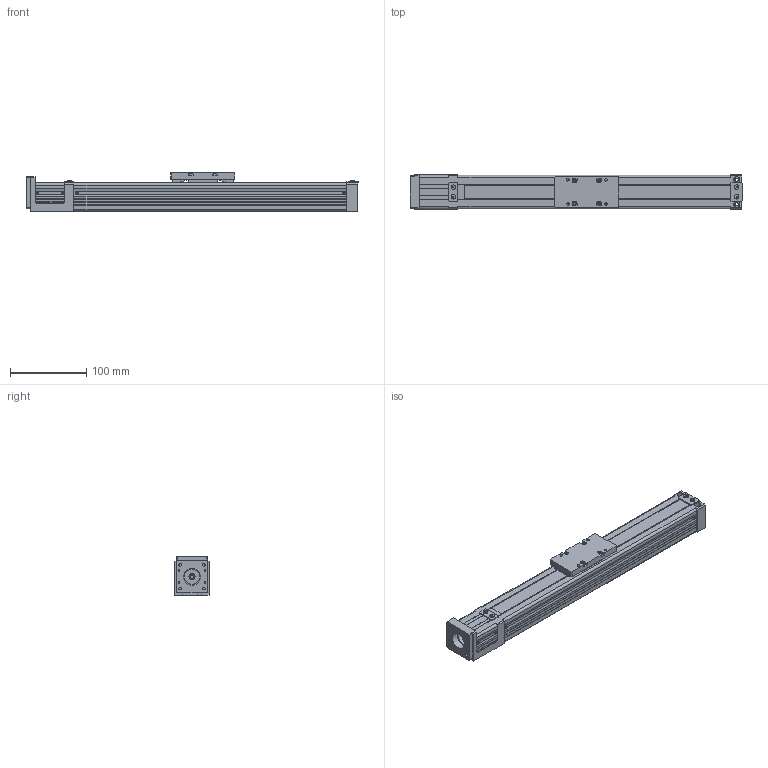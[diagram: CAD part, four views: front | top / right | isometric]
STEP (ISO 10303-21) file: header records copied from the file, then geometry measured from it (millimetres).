
FILE_DESCRIPTION((''),'2;1');
FILE_NAME('D:\製品 (図面)\カタログ用3D\SU部品\SU45×50\ダウンロード用\SU45×50-MB42\SU45×50-250-MB42.stp','2011-06-17T14:45:17',('Tsuchiya'),(''),'Autodesk Inventor 10','Autodesk Inventor 10','');
FILE_SCHEMA(('AUTOMOTIVE_DESIGN { 1 0 10303 214 1 1 1 1 }'));
Length unit declared in the file: millimetre
Products named in the file (3): SU45×50-250-MB42; SB45×50-250-MB42-1(1); SU45×50-T(1)
Assembly tree (2 placements, depth 2):
  SU45×50-250-MB42
    SB45×50-250-MB42-1(1)
    SU45×50-T(1)
Bounding box: 436 x 45 x 50 mm (x, y, z)
Volume: 289376.3 mm3; surface area: 177102.9 mm2
Topology: 2 solids, 2 shells, 676 faces, 1809 edges, 1192 vertices
Faces by surface type: plane 513, cylinder 79, bspline 53, torus 18, cone 13
Full cylindrical faces by diameter (mm): 2.459 x4, 3.242 x4, 3.4 x4, 4.5 x4, 5 x4, 6 x5, 7 x6, 8 x7, 10 x1, 20 x1, 22 x1, 30 x1
Entity records: 20861 total; most frequent: CARTESIAN_POINT 4588, ORIENTED_EDGE 3336, DIRECTION 3112, EDGE_CURVE 1668, VECTOR 1316, LINE 1316, VERTEX_POINT 1156, AXIS2_PLACEMENT_3D 898
